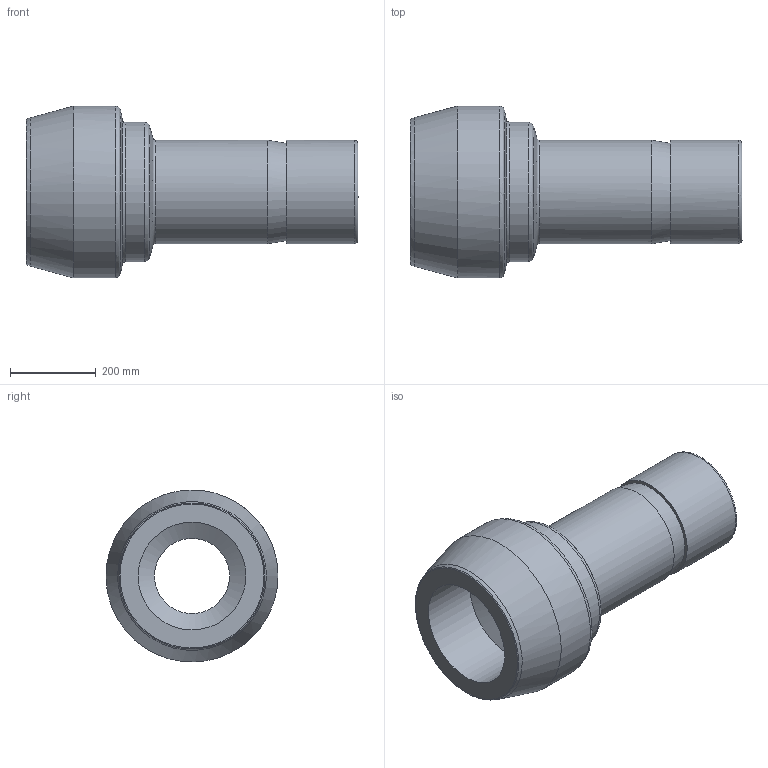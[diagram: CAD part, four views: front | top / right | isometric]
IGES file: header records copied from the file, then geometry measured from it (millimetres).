
Global section: file name: SRPC-8-6; native system: Autodesk Inventor 2016; preprocessor: unknown; author: DESIGNPC2; date: 20151219.133744; units: millimetre
Bounding box: 774.7 x 401.32 x 401.22 mm (x, y, z)
Volume: 31465108.1 mm3; surface area: 1308233.8 mm2
Topology: 1 solids, 1 shells, 21 faces, 70 edges, 52 vertices
Faces by surface type: bspline 21
